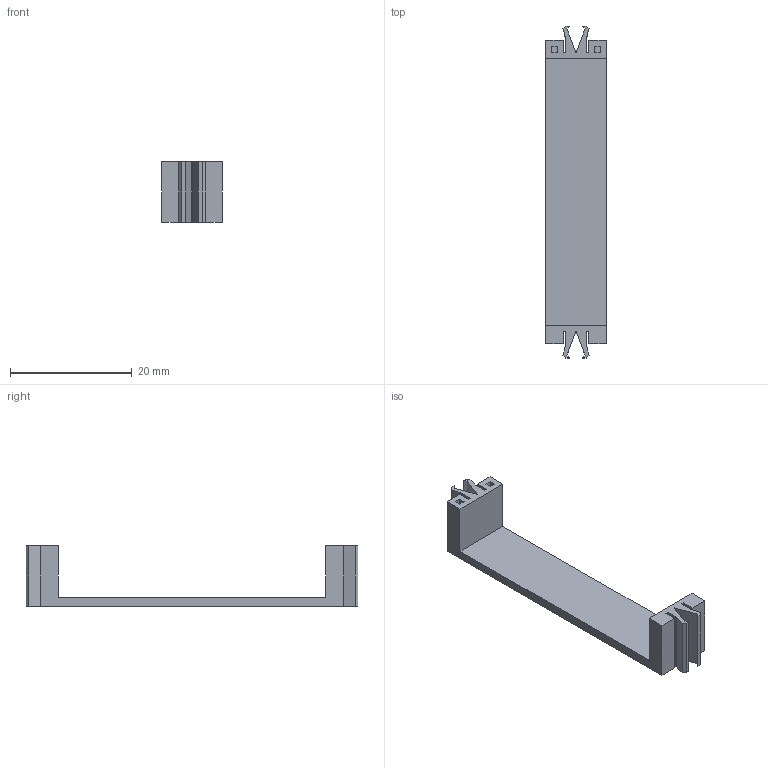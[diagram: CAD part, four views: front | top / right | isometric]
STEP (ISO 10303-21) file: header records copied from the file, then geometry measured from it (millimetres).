
FILE_DESCRIPTION(/* description */ (''),/* implementation_level */ '2;1');
FILE_NAME(/* name */ 'C:/Users/priba/Downloads/Plate1x5x1Cross.step',/* time_stamp */ '2020-06-09T22:21:03+02:00',/* author */ (''),/* organization */ (''),/* preprocessor_version */ 'ST-DEVELOPER v18.1',/* originating_system */ 'Autodesk Translation Framework v9.3.0.1241',/* authorisation */ '');
FILE_SCHEMA (('AUTOMOTIVE_DESIGN { 1 0 10303 214 3 1 1 }'));
Length unit declared in the file: millimetre
Products named in the file (1): Plate1x5x1Cross
Bounding box: 10 x 54.61 x 10 mm (x, y, z)
Volume: 1227.5 mm3; surface area: 2184 mm2
Topology: 1 solids, 3 shells, 68 faces, 180 edges, 120 vertices
Faces by surface type: plane 68
Entity records: 2082 total; most frequent: CARTESIAN_POINT 369, ORIENTED_EDGE 360, DIRECTION 318, LINE 180, VECTOR 180, EDGE_CURVE 180, VERTEX_POINT 120, EDGE_LOOP 70
